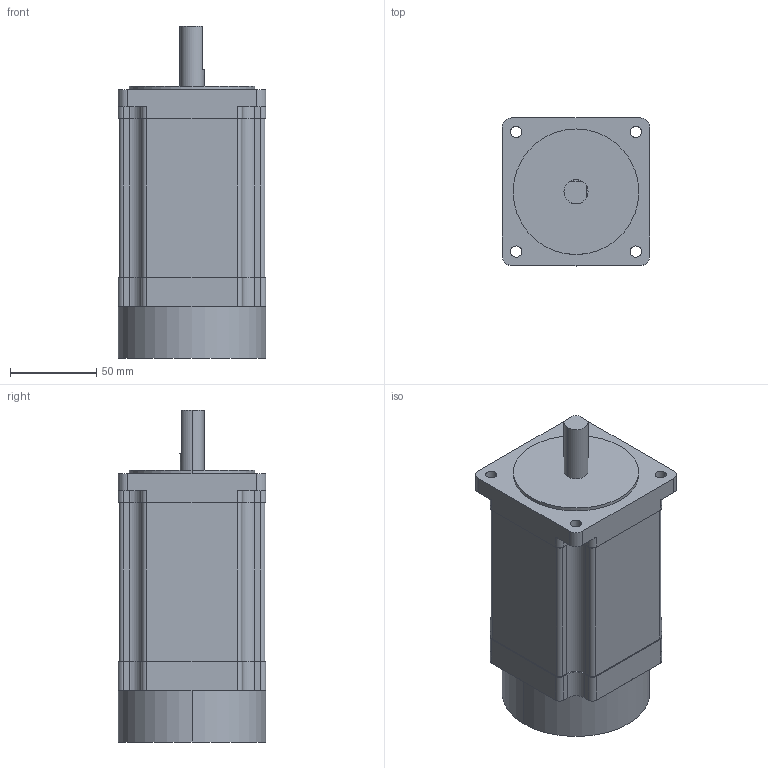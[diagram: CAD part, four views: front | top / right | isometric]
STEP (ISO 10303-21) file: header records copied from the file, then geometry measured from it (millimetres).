
FILE_DESCRIPTION (( 'STEP AP214' ), '1' );
FILE_NAME ('EXMK2913-04M.STEP', '2016-09-09T06:21:02', ( 'hoho' ), ( '' ), 'SwSTEP 2.0', 'SolidWorks 2013', '' );
FILE_SCHEMA (( 'AUTOMOTIVE_DESIGN' ));
Length unit declared in the file: millimetre
Products named in the file (1): EXMK2913-04M
Bounding box: 85.8 x 85.8 x 193 mm (x, y, z)
Volume: 1016747.9 mm3; surface area: 65883.6 mm2
Topology: 1 solids, 1 shells, 108 faces, 300 edges, 198 vertices
Faces by surface type: cylinder 54, plane 54
Entity records: 3826 total; most frequent: DIRECTION 632, CARTESIAN_POINT 607, ORIENTED_EDGE 600, EDGE_CURVE 300, AXIS2_PLACEMENT_3D 223, VERTEX_POINT 198, LINE 186, VECTOR 186
